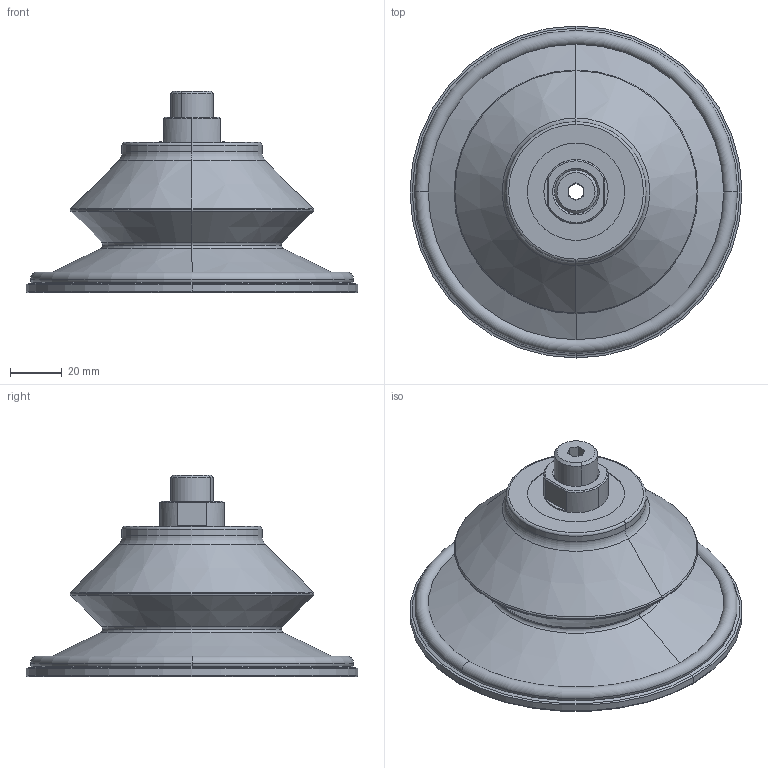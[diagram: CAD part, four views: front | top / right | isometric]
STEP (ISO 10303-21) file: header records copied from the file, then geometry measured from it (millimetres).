
FILE_DESCRIPTION(('STEP AP214'),'1');
FILE_NAME('10_01_06_01186.stp','2020-10-24T00:22:36',('TraceParts'),('TraceParts S.A.'),'Spatial InterOp 3D',' ',' ');
FILE_SCHEMA(('AUTOMOTIVE_DESIGN { 1 0 10303 214 1 1 1 1 }'));
Length unit declared in the file: millimetre
Products named in the file (1): 10_01_06_01186
Bounding box: 128 x 128 x 77.8 mm (x, y, z)
Volume: 276329.2 mm3; surface area: 48000 mm2
Topology: 1 solids, 2 shells, 91 faces, 198 edges, 116 vertices
Faces by surface type: plane 27, torus 22, cylinder 22, cone 20
Entity records: 3251 total; most frequent: DIRECTION 498, CARTESIAN_POINT 418, ORIENTED_EDGE 396, AXIS2_PLACEMENT_3D 212, EDGE_CURVE 198, CIRCLE 120, VERTEX_POINT 116, EDGE_LOOP 100
